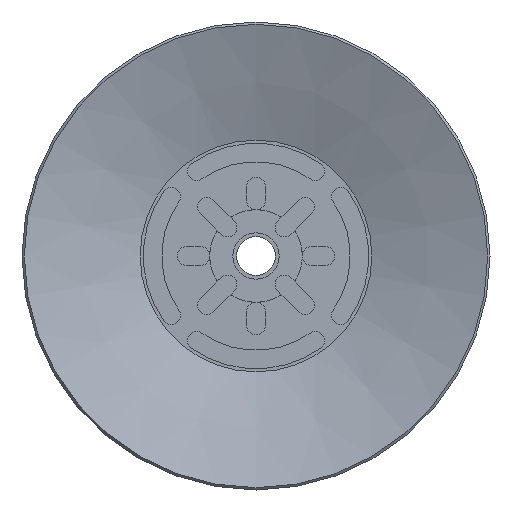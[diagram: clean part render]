
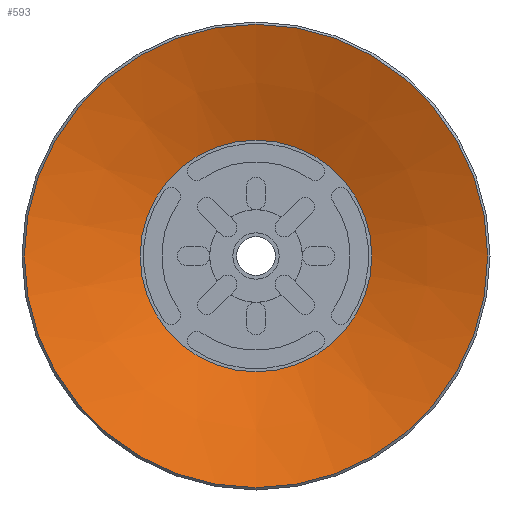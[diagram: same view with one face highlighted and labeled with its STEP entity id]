
A CAD part, front view. The second image highlights one B-rep face of the part: STEP entity #593.
In plain terms, the highlighted conical face has half-angle 70.201 degrees and reference radius 7.5 mm.
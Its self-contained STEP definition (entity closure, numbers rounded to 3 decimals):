
#593=ADVANCED_FACE('',(#993,#994),#995,.F.);
#993=FACE_BOUND('',#1698,.T.);
#994=FACE_OUTER_BOUND('',#1699,.T.);
#995=CONICAL_SURFACE('',#1700,7.5,1.225);
#1698=EDGE_LOOP('',(#2778));
#1699=EDGE_LOOP('',(#2779));
#1700=AXIS2_PLACEMENT_3D('',#2780,#2781,#2782);
#2778=ORIENTED_EDGE('',*,*,#3624,.F.);
#2779=ORIENTED_EDGE('',*,*,#3625,.T.);
#2780=CARTESIAN_POINT('',(0.0,0.0,2.7));
#2781=DIRECTION('',(0.0,0.,-1.0));
#2782=DIRECTION('',(0.0,1.0,0.));
#3624=EDGE_CURVE('',#4264,#4264,#4265,.T.);
#3625=EDGE_CURVE('',#4266,#4266,#4267,.T.);
#4264=VERTEX_POINT('',#5717);
#4265=CIRCLE('',#5718,7.5);
#4266=VERTEX_POINT('',#5719);
#4267=CIRCLE('',#5720,15.0);
#5717=CARTESIAN_POINT('',(0.0,7.5,2.7));
#5718=AXIS2_PLACEMENT_3D('',#6464,#6465,#6466);
#5719=CARTESIAN_POINT('',(0.0,15.0,0.));
#5720=AXIS2_PLACEMENT_3D('',#6467,#6468,#6469);
#6464=CARTESIAN_POINT('',(0.0,0.0,2.7));
#6465=DIRECTION('',(0.0,0.,-1.0));
#6466=DIRECTION('',(0.0,1.0,0.));
#6467=CARTESIAN_POINT('',(0.0,0.0,0.0));
#6468=DIRECTION('',(0.0,0.,-1.0));
#6469=DIRECTION('',(0.0,1.0,0.));
